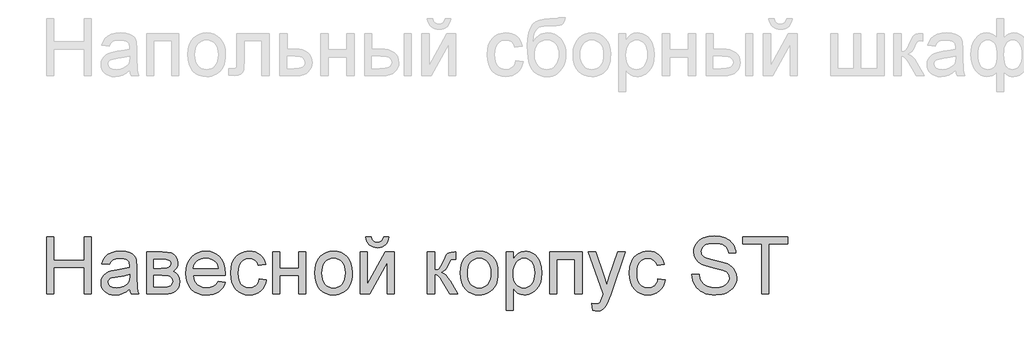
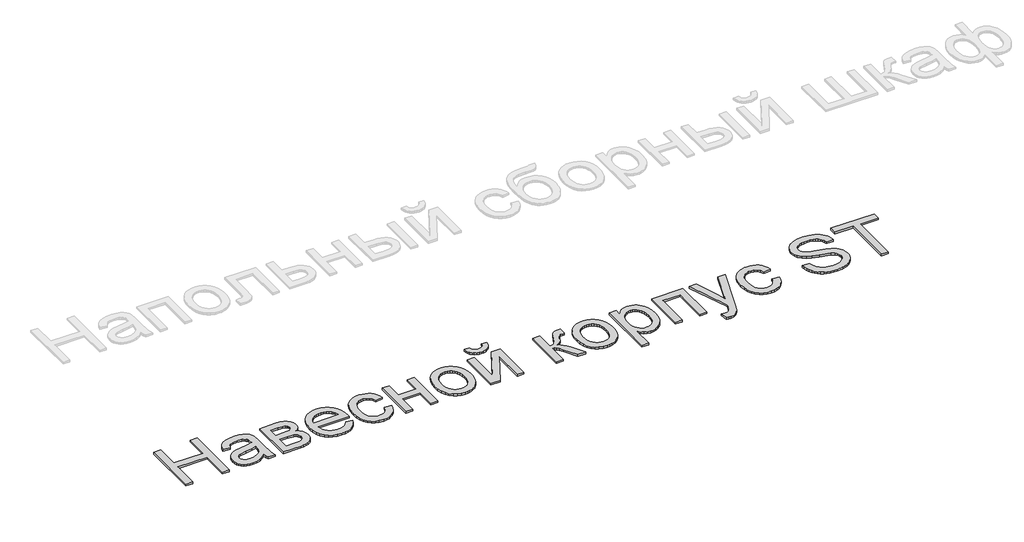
# One storey, part 5 of 6: 1 proxy.
"""IFC4 building model written with IfcOpenShell, lengths in millimetres."""

import ifcopenshell
import ifcopenshell.guid

model = None  # the IFC model being written
_history = None  # IfcOwnerHistory: only IFC2X3 demands one
_inside = {}  # id of a spatial element -> (the spatial element, [elements in it])
_under = {}  # id of a project, library or spatial element -> (it, [spatial elements below it])
_declared = {}  # id of a project -> (the project, [libraries it declares])
_typed = {}  # id of a type object -> (the type object, [elements of that type])
_made_of = {}  # id of a material, layer set ... -> (it, [elements and type objects made of it])


def new_model(schema):
    """Start an empty IFC model of exactly this schema.

    Asked for "IFC4X3", IfcOpenShell would pick the latest addendum, in which some entities
    have other attributes; the version numbers below select the first issue.
    IFC2X3 requires an IfcOwnerHistory on every rooted entity: one is made here for all.
    """
    global model, _history
    if schema == "IFC4X3":
        model = ifcopenshell.file(schema_version=(4, 3, 0, 0))
    else:
        model = ifcopenshell.file(schema=schema)
    _inside.clear()
    _under.clear()
    _declared.clear()
    _typed.clear()
    _made_of.clear()
    _history = None
    if model.schema == "IFC2X3":
        org = make("IfcOrganization", Name="unknown")
        user = make(
            "IfcPersonAndOrganization",
            ThePerson=make("IfcPerson", FamilyName="unknown"),
            TheOrganization=org,
        )
        app = make(
            "IfcApplication",
            ApplicationDeveloper=org,
            Version="unknown",
            ApplicationFullName="unknown",
            ApplicationIdentifier="unknown",
        )
        _history = make(
            "IfcOwnerHistory",
            OwningUser=user,
            OwningApplication=app,
            ChangeAction="ADDED",
            CreationDate=0,
        )
    return model


def make(cls, **values):
    """One entity of the class cls with the attributes given. An attribute that is None is left unset."""
    return model.create_entity(
        cls, **{name: value for name, value in values.items() if value is not None}
    )


def rooted(cls, **values):
    """An entity with a GlobalId (a new one), such as an element, a storey or a relation."""
    return make(cls, GlobalId=ifcopenshell.guid.new(), OwnerHistory=_history, **values)


def si_unit(unit_type, name, prefix=None):
    """IfcSIUnit, for example si_unit("LENGTHUNIT", "METRE", prefix="MILLI")."""
    return make("IfcSIUnit", UnitType=unit_type, Prefix=prefix, Name=name)


def assignment(units):
    """IfcUnitAssignment: the units of a project."""
    return None if units is None else make("IfcUnitAssignment", Units=units)


def point(xyz):
    """IfcCartesianPoint."""
    return None if xyz is None else make("IfcCartesianPoint", Coordinates=xyz)


def direction(xyz):
    """IfcDirection."""
    return None if xyz is None else make("IfcDirection", DirectionRatios=xyz)


def frame(location, z_axis=None, x_axis=None):
    """IfcAxis2Placement3D, a coordinate frame: its origin and axes. An axis left out is left unset."""
    return make(
        "IfcAxis2Placement3D",
        Location=point(location),
        Axis=direction(z_axis),
        RefDirection=direction(x_axis),
    )


def origin():
    """The frame at (0, 0, 0) with its axes left unset."""
    return frame((0.0, 0.0, 0.0))


def origin_with_axes():
    """The frame at (0, 0, 0) with the z axis (0, 0, 1) and the x axis (1, 0, 0) written out."""
    return frame((0.0, 0.0, 0.0), z_axis=(0.0, 0.0, 1.0), x_axis=(1.0, 0.0, 0.0))


def place(relative_to, where):
    """IfcLocalPlacement: puts the frame where relative to a parent placement (None: the world)."""
    return make(
        "IfcLocalPlacement", PlacementRelTo=relative_to, RelativePlacement=where
    )


def context(
    kind, dimensions, precision=None, world=None, true_north=None, identifier=None
):
    """IfcGeometricRepresentationContext, for example the 3D "Model" context."""
    return make(
        "IfcGeometricRepresentationContext",
        ContextIdentifier=identifier,
        ContextType=kind,
        CoordinateSpaceDimension=dimensions,
        Precision=precision,
        WorldCoordinateSystem=world,
        TrueNorth=true_north,
    )


def project(units=None, contexts=None):
    """IfcProject with its units and contexts."""
    return rooted(
        "IfcProject",
        Name="project",
        RepresentationContexts=contexts,
        UnitsInContext=assignment(units),
    )


def spatial(cls, under=None, at=None, **own):
    """A site, building, storey or space (cls), placed at a placement, below another one or the project."""
    s = rooted(cls, ObjectPlacement=at, **own)
    if under is not None:
        _under.setdefault(under.id(), (under, []))[1].append(s)
    return s


def polyline(points):
    """IfcPolyline through the points."""
    return make("IfcPolyline", Points=[point(p) for p in points])


def outline(outer, holes=None, kind="AREA"):
    """IfcArbitraryClosedProfileDef: a profile drawn as a closed curve; with holes, ...WithVoids."""
    if holes is None:
        return make("IfcArbitraryClosedProfileDef", ProfileType=kind, OuterCurve=outer)
    return make(
        "IfcArbitraryProfileDefWithVoids",
        ProfileType=kind,
        OuterCurve=outer,
        InnerCurves=holes,
    )


def extrude(swept, where, along, depth):
    """IfcExtrudedAreaSolid: the profile swept, set in the frame where, extruded along a direction by depth."""
    return make(
        "IfcExtrudedAreaSolid",
        SweptArea=swept,
        Position=where,
        ExtrudedDirection=direction(along),
        Depth=depth,
    )


def shape(context_of_items, identifier, shape_type, items):
    """IfcShapeRepresentation: the items that make up one representation, for example the "Body"."""
    return make(
        "IfcShapeRepresentation",
        ContextOfItems=context_of_items,
        RepresentationIdentifier=identifier,
        RepresentationType=shape_type,
        Items=items,
    )


def made_of(thing, what):
    """Note that an element or type object is made of a material, layer set ...; save() writes the relation."""
    if what is not None:
        _made_of.setdefault(what.id(), (what, []))[1].append(thing)
    return thing


def element(
    cls,
    number,
    at=None,
    inside=None,
    cuts=None,
    type_object=None,
    material=None,
    context=None,
    identifier="Body",
    shape_type=None,
    held_by="IfcProductDefinitionShape",
    body=None,
    shapes=None,
    **own,
):
    """One element of the class cls, such as IfcWall. Its Tag is "e" and its number.

    at: its placement. inside: the storey or other place that contains it. cuts: it is an
    opening in that element (IfcRelVoidsElement). A single representation is given by context,
    identifier, shape_type and body (its items); several are given by shapes. held_by: the class
    of the entity that holds the representations. save() writes the other relations.
    """
    e = rooted(cls, Tag="e%d" % number, ObjectPlacement=at, **own)
    if body is not None:
        shapes = [shape(context, identifier, shape_type, body)]
    if shapes is not None:
        e.Representation = make(held_by, Representations=shapes)
    if inside is not None:
        _inside.setdefault(inside.id(), (inside, []))[1].append(e)
    if cuts is not None:
        rooted(
            "IfcRelVoidsElement", RelatingBuildingElement=cuts, RelatedOpeningElement=e
        )
    if type_object is not None:
        _typed.setdefault(type_object.id(), (type_object, []))[1].append(e)
    return made_of(e, material)


def aggregate(whole, parts):
    """IfcRelAggregates: a whole, such as a stair, and the parts it consists of."""
    return rooted("IfcRelAggregates", RelatingObject=whole, RelatedObjects=parts)


def save(model, path):
    """Write the relations noted so far, then the file.

    IfcRelAggregates (storeys below a building ...), IfcRelContainedInSpatialStructure (elements
    in a storey), IfcRelDefinesByType, IfcRelAssociatesMaterial and IfcRelDeclares: one each for
    every whole, place, type object, material and project.
    """
    for whole, parts in _under.values():
        aggregate(whole, parts)
    for where, things in _inside.values():
        rooted(
            "IfcRelContainedInSpatialStructure",
            RelatedElements=things,
            RelatingStructure=where,
        )
    for kind, things in _typed.values():
        rooted("IfcRelDefinesByType", RelatedObjects=things, RelatingType=kind)
    for what, things in _made_of.values():
        rooted("IfcRelAssociatesMaterial", RelatedObjects=things, RelatingMaterial=what)
    for by, libraries in _declared.values():
        rooted("IfcRelDeclares", RelatingContext=by, RelatedDefinitions=libraries)
    model.write(path)


model = new_model("IFC4")

# Units and contexts
model_context = context("Model", 3, world=origin())
ifc_project = project(units=[si_unit("LENGTHUNIT", "METRE", prefix="MILLI")], contexts=[model_context])

# Site, building, storey
site = spatial("IfcSite", under=ifc_project)
building = spatial("IfcBuilding", under=site)
storey = spatial("IfcBuildingStorey", under=building, Name="Этаж 01", Elevation=0.0)

# Proxy
placement = place(None, origin())
element("IfcBuildingElementProxy", 1, Name="600 мм Arial", ObjectType="600 мм Arial", at=placement, inside=storey, context=model_context, shape_type="SweptSolid", body=[
    extrude(outline(polyline([(180.1086, -5560.1853259), (180.1086, -4957.447465), (255.4508326, -4957.447465), (255.4508326, -5202.309721), (575.6553212, -5202.309721), (575.6553212, -4957.447465), (650.9975538, -4957.447465), (650.9975538, -5560.1853259), (575.6553212, -5560.1853259), (575.6553212, -5277.6519536), (255.4508326, -5277.6519536), (255.4508326, -5560.1853259), (180.1086, -5560.1853259)])), origin_with_axes(), (0.0, 0.0, 1.0), 20.0),
    extrude(outline(polyline([(1055.9620541, -5503.6786514), (1019.9648008, -5534.5439508), (982.9006898, -5554.7406724), (943.9235924, -5565.8874968), (902.1873801, -5569.603105), (868.6411407, -5567.3682218), (839.2243766, -5560.6635725), (813.937088, -5549.4891569), (792.7792747, -5533.844975), (776.0728336, -5514.7243083), (764.1396614, -5493.1204382), (756.9797581, -5469.0333645), (754.5931236, -5442.4630874), (758.1983672, -5411.229906), (769.0140978, -5382.8662042), (785.6975463, -5358.5859925), (806.9059433, -5339.6032816), (831.8299485, -5325.2558838), (859.6602214, -5314.8816115), (924.848911, -5303.5508461), (1001.8834008, -5291.6314694), (1055.5205957, -5277.6519536), (1055.9620541, -5260.8765346), (1050.7749179, -5227.2521203), (1044.2909978, -5214.7993147), (1035.2135095, -5205.2527769), (1019.5233425, -5195.7246333), (1000.4118728, -5188.9188164), (951.9250258, -5183.4741628), (907.0434224, -5187.0978005), (875.6998764, -5197.9687134), (854.3259325, -5218.0734645), (839.3531353, -5249.3986164), (764.0109027, -5239.9808373), (777.0891076, -5198.7780538), (796.6052475, -5166.4044383), (824.3803381, -5141.64598), (862.2353954, -5123.2886684), (908.5333445, -5111.9211148), (961.6371105, -5108.1319302), (1012.5703727, -5111.4796564), (1052.9454217, -5121.5228348), (1083.3876568, -5136.6243907), (1104.5224774, -5155.1472492), (1118.5387815, -5178.0479034), (1127.6254667, -5206.2828465), (1131.3042867, -5272.2073001), (1131.3042867, -5365.9436324), (1135.1302594, -5496.8360463), (1140.7956422, -5529.1912678), (1150.1398448, -5560.1853259), (1074.7976122, -5560.1853259), (1062.7310828, -5533.9921278), (1055.9620541, -5503.6786514)]), holes=[polyline([(1055.9620541, -5352.9941862), (1005.3414915, -5365.5389622), (934.4138429, -5376.0971755), (869.5930353, -5388.3108577), (852.7256458, -5396.661779), (840.2360521, -5408.1764855), (832.5105302, -5421.9720603), (829.9353562, -5437.1655867), (835.5455567, -5459.5696002), (852.3761579, -5477.9269118), (880.0592781, -5490.1773822), (918.2270351, -5494.2608724), (958.6940545, -5489.7543179), (994.4521845, -5476.2346546), (1023.4412857, -5456.3138446), (1043.601219, -5432.60385), (1052.5407515, -5408.1764855), (1055.5205957, -5374.3313419), (1055.9620541, -5352.9941862)])]), origin_with_axes(), (0.0, 0.0, 1.0), 20.0),
    extrude(outline(polyline([(1234.8998565, -5117.5497093), (1400.8882128, -5117.5497093), (1454.2494962, -5120.069701), (1491.9022184, -5127.629676), (1519.6037326, -5141.9034974), (1543.1113921, -5164.5650283), (1559.1694412, -5194.0875584), (1564.5221242, -5228.9443774), (1561.2847626, -5257.0321678), (1551.572678, -5281.2571972), (1535.349082, -5301.7298302), (1512.5771865, -5318.5604315), (1540.4626417, -5334.2138104), (1563.197749, -5359.3953329), (1578.317699, -5392.1184364), (1583.3576824, -5430.396558), (1579.1730247, -5461.2342662), (1570.5921771, -5487.8229374), (1557.6151397, -5510.1625716), (1540.2419125, -5528.2531687), (1518.4449043, -5542.2234875), (1492.196524, -5552.2022866), (1461.4967715, -5558.1895661), (1426.3456468, -5560.1853259), (1234.8998565, -5560.1853259), (1234.8998565, -5117.5497093)]), holes=[polyline([(1310.2420891, -5287.0697327), (1384.701405, -5287.0697327), (1446.1376982, -5283.2437599), (1461.9566239, -5277.5048008), (1476.0097162, -5267.9398689), (1485.8873477, -5255.2847283), (1489.1798916, -5240.2751429), (1487.7359548, -5228.0338695), (1483.4041443, -5217.797553), (1476.1844601, -5209.5661933), (1466.0769023, -5203.3397906), (1434.7701445, -5195.5039041), (1387.0558497, -5192.8919419), (1310.2420891, -5192.8919419), (1310.2420891, -5287.0697327)]), polyline([(1310.2420891, -5484.8430933), (1402.6540463, -5484.8430933), (1453.0170915, -5481.4401848), (1484.6181549, -5471.2314595), (1494.413013, -5463.1886393), (1501.5775148, -5452.6718128), (1508.0154497, -5424.2161405), (1504.7964823, -5405.3621882), (1495.1395799, -5387.9429758), (1480.3139355, -5374.3129478), (1461.588742, -5366.8265492), (1395.2964064, -5362.4119653), (1310.2420891, -5362.4119653), (1310.2420891, -5484.8430933)])]), origin_with_axes(), (0.0, 0.0, 1.0), 20.0),
    extrude(outline(polyline([(1987.4392659, -5428.3364188), (2061.3099705, -5437.7541979), (2049.9838036, -5467.3411074), (2034.6937081, -5493.4147438), (2015.4396842, -5515.9751071), (1992.2217318, -5535.0221974), (1965.2789742, -5550.1513445), (1934.8505346, -5560.9578781), (1900.9364132, -5567.4417982), (1863.5366099, -5569.603105), (1816.7880053, -5565.8737012), (1775.1345664, -5554.6854901), (1738.5762932, -5536.0384714), (1707.1131855, -5509.9326454), (1681.8121013, -5477.0945788), (1663.7398983, -5438.2508386), (1652.8965765, -5393.4014249), (1649.2821359, -5342.5463375), (1652.9333647, -5289.9668034), (1663.8870511, -5243.622869), (1682.1431951, -5203.5145345), (1707.7017967, -5169.6417998), (1739.0821309, -5142.7312319), (1774.8034726, -5123.5093976), (1814.8658219, -5111.9762971), (1859.2691787, -5108.1319302), (1902.2423943, -5111.9671), (1941.1045286, -5123.4726094), (1975.8555815, -5142.6484584), (2006.4955532, -5169.494647), (2031.5069304, -5203.2938053), (2049.3721997, -5243.3285634), (2060.0913614, -5289.5989214), (2063.6644153, -5342.1048792), (2063.2229569, -5362.4119653), (1724.6243685, -5362.4119653), (1728.9883687, -5392.4771213), (1737.6657852, -5418.8082751), (1750.6566182, -5441.4054267), (1767.9608675, -5460.268576), (1788.6220401, -5475.1402057), (1811.6836427, -5485.7627983), (1837.1456753, -5492.1363538), (1865.0081379, -5494.2608724), (1905.1072753, -5490.324535), (1938.8788425, -5478.515523), (1966.3228393, -5458.0980722), (1987.4392659, -5428.3364188)]), holes=[polyline([(1724.6243685, -5287.0697327), (1988.3221826, -5287.0697327), (1978.1318514, -5247.2649008), (1969.3670628, -5231.6115219), (1958.155859, -5218.7908344), (1937.6096496, -5203.3397906), (1914.2307488, -5192.3033307), (1888.0191567, -5185.6814548), (1858.9748731, -5183.4741628), (1832.482771, -5185.2353979), (1808.1887637, -5190.519103), (1786.0928514, -5199.3252783), (1766.195034, -5211.6539237), (1749.4977899, -5226.934822), (1737.0035976, -5244.5977563), (1728.7124572, -5264.6427265), (1724.6243685, -5287.0697327)])]), origin_with_axes(), (0.0, 0.0, 1.0), 20.0),
    extrude(outline(polyline([(2421.5400202, -5400.0830816), (2496.8822528, -5409.5008607), (2488.6876813, -5445.052057), (2475.8761909, -5476.5105661), (2458.4477813, -5503.876388), (2436.4024528, -5527.1495227), (2410.6691072, -5545.722965), (2382.1766467, -5558.9897094), (2350.9250712, -5566.9497561), (2316.9143807, -5569.603105), (2274.6585351, -5565.9012924), (2236.7712881, -5554.7958547), (2203.2526398, -5536.2867918), (2174.1025902, -5510.3741037), (2150.5075587, -5477.5452342), (2133.6539648, -5438.2876268), (2123.5418085, -5392.6012815), (2120.1710897, -5340.4861984), (2125.9284429, -5273.4397048), (2133.1251345, -5243.2687826), (2143.2005026, -5215.3327436), (2156.2235252, -5190.1926078), (2172.2631802, -5168.4093951), (2191.3194676, -5149.9831057), (2213.3923873, -5134.9137395), (2237.4840595, -5123.1966979), (2262.5966042, -5114.8273825), (2288.7300214, -5109.8057933), (2315.8843112, -5108.1319302), (2349.3109889, -5110.4311927), (2379.5462904, -5117.3289801), (2406.5902156, -5128.8252924), (2430.4427645, -5144.9201297), (2450.6992668, -5165.24561), (2466.9550525, -5189.4338512), (2479.2101214, -5217.4848533), (2487.4644737, -5249.3986164), (2412.1222411, -5258.8163954), (2398.455425, -5225.9461392), (2377.1734516, -5202.3832974), (2349.4535432, -5188.2014465), (2316.4729223, -5183.4741628), (2290.872934, -5185.8010165), (2267.7837403, -5192.7815773), (2247.2053412, -5204.4158454), (2229.1377367, -5220.7038207), (2214.4270554, -5242.0225824), (2203.9194259, -5268.7492093), (2197.6148482, -5300.8837016), (2195.5133223, -5338.4260592), (2197.568863, -5376.5340354), (2203.7354849, -5409.0410082), (2214.0131882, -5435.9469776), (2228.4019727, -5457.2519436), (2246.1108922, -5473.44335), (2266.3490005, -5485.0086402), (2289.1162975, -5491.9478143), (2314.4127832, -5494.2608724), (2353.4266688, -5488.485125), (2370.2986568, -5481.2654409), (2385.4140082, -5471.1578831), (2398.3496589, -5458.052087), (2408.6825444, -5441.837688), (2416.4126649, -5422.5146862), (2421.5400202, -5400.0830816)])), origin_with_axes(), (0.0, 0.0, 1.0), 20.0),
    extrude(outline(polyline([(2562.8067063, -5117.5497093), (2638.1489389, -5117.5497093), (2638.1489389, -5287.0697327), (2835.9222995, -5287.0697327), (2835.9222995, -5117.5497093), (2911.2645321, -5117.5497093), (2911.2645321, -5560.1853259), (2835.9222995, -5560.1853259), (2835.9222995, -5362.4119653), (2638.1489389, -5362.4119653), (2638.1489389, -5560.1853259), (2562.8067063, -5560.1853259), (2562.8067063, -5117.5497093)])), origin_with_axes(), (0.0, 0.0, 1.0), 20.0),
    extrude(outline(polyline([(3005.4423229, -5338.8675176), (3009.516616, -5281.5423057), (3021.7394953, -5232.1449508), (3042.1109608, -5190.6754529), (3070.6310125, -5157.133812), (3099.3442022, -5135.6954887), (3131.0372361, -5120.3824007), (3165.7101141, -5111.1945478), (3203.3628363, -5108.1319302), (3244.9289032, -5111.8613339), (3282.5126476, -5123.0495451), (3316.1140693, -5141.6965638), (3345.7331685, -5167.8023898), (3369.9076141, -5200.4841066), (3387.1750752, -5238.8587972), (3397.5355519, -5282.9264617), (3400.9890441, -5332.6871001), (3399.4623338, -5373.0161638), (3394.882203, -5408.8018849), (3387.2486516, -5440.0442633), (3376.5616796, -5466.7432991), (3362.9546444, -5489.8049017), (3346.5609029, -5510.1349804), (3327.3804554, -5527.7335354), (3305.4133018, -5542.6005665), (3281.5147677, -5554.4141771), (3256.5401787, -5562.8524704), (3230.4895349, -5567.9154463), (3203.3628363, -5569.603105), (3161.1897641, -5565.8874968), (3123.2565319, -5554.7406724), (3089.5631396, -5536.1626316), (3060.1095874, -5510.1533745), (3036.1926592, -5477.1543596), (3019.109139, -5437.6070451), (3008.8590269, -5391.5114311), (3005.4423229, -5338.8675176)]), holes=[polyline([(3080.7845555, -5338.7203648), (3082.9642563, -5375.2648425), (3089.5033588, -5406.9072926), (3100.4018629, -5433.6477151), (3115.6597687, -5455.4861101), (3134.2194153, -5472.4500686), (3155.0231422, -5484.5671818), (3178.0709491, -5491.8374497), (3203.3628363, -5494.2608724), (3228.5259648, -5491.8236541), (3251.4818013, -5484.5119995), (3272.2303458, -5472.3259084), (3290.7715984, -5455.2653809), (3306.0295041, -5433.2108553), (3316.9280082, -5406.0427699), (3323.4671107, -5373.7611248), (3325.6468115, -5336.36592), (3323.4533151, -5300.9802706), (3316.8728259, -5270.165555), (3305.9053439, -5243.9217732), (3290.5508692, -5222.2489251), (3271.9406387, -5205.2849666), (3251.2058898, -5193.1678534), (3228.3466223, -5185.8975855), (3203.3628363, -5183.4741628), (3178.0709491, -5185.8883884), (3155.0231422, -5193.1310652), (3134.2194153, -5205.2021932), (3115.6597687, -5222.1017723), (3100.4018629, -5243.8757879), (3089.5033588, -5270.5702252), (3082.9642563, -5302.1850842), (3080.7845555, -5338.7203648)])]), origin_with_axes(), (0.0, 0.0, 1.0), 20.0),
    extrude(outline(polyline([(3730.6113118, -4957.447465), (3787.1179863, -4957.447465), (3782.5700451, -4983.1578179), (3774.9594863, -5005.6951887), (3764.2863099, -5025.0595772), (3750.5505159, -5041.2509835), (3734.0280158, -5054.0302843), (3714.9947211, -5063.1583563), (3693.4506318, -5068.6351995), (3669.3957478, -5070.4608139), (3643.2669291, -5068.6489951), (3619.9156195, -5063.2135386), (3599.3418189, -5054.1544445), (3581.5455274, -5041.4717127), (3566.7842623, -5025.3492843), (3555.3155411, -5005.9711002), (3547.1393638, -4983.3371604), (3542.2557303, -4957.447465), (3598.7624047, -4957.447465), (3606.7086558, -4982.2611056), (3619.9524077, -4999.9010472), (3638.5672366, -5010.4408664), (3662.6267191, -5013.9541395), (3689.7764103, -5010.551231), (3709.4213089, -5000.3425056), (3722.6650607, -4982.8129286), (3730.6113118, -4957.447465)])), origin_with_axes(), (0.0, 0.0, 1.0), 20.0),
    extrude(outline(polyline([(3485.7490558, -5117.5497093), (3561.0912884, -5117.5497093), (3561.0912884, -5455.1182281), (3746.2095084, -5117.5497093), (3843.6246607, -5117.5497093), (3843.6246607, -5560.1853259), (3768.2824281, -5560.1853259), (3768.2824281, -5224.6769463), (3584.3414305, -5560.1853259), (3485.7490558, -5560.1853259), (3485.7490558, -5117.5497093)])), origin_with_axes(), (0.0, 0.0, 1.0), 20.0),
    extrude(outline(polyline([(4192.0824866, -5117.5497093), (4267.4247192, -5117.5497093), (4267.4247192, -5305.9052908), (4298.0692894, -5302.5207765), (4317.8981289, -5292.3672334), (4335.4461001, -5265.8797298), (4359.2480652, -5213.4933336), (4378.4331112, -5170.6534753), (4393.6082435, -5145.4351645), (4407.7717003, -5131.694772), (4423.9217199, -5123.2886684), (4446.2705511, -5118.9844491), (4479.0304428, -5117.5497093), (4493.451417, -5117.5497093), (4493.451417, -5193.3334003), (4473.1443309, -5192.8919419), (4449.5998832, -5194.8785047), (4436.3561314, -5200.838193), (4425.6139771, -5217.429671), (4410.4572389, -5250.428686), (4394.5463426, -5283.4828832), (4380.0701861, -5304.0658809), (4362.540609, -5317.8062734), (4337.469451, -5330.3326553), (4361.3449925, -5340.9368538), (4384.9998048, -5359.6528503), (4408.4338879, -5386.4806448), (4431.6472418, -5421.4202373), (4512.2869752, -5560.1853259), (4426.6440467, -5560.1853259), (4347.6229941, -5424.3632933), (4326.2858384, -5388.2188872), (4307.8917386, -5366.9001256), (4289.3136979, -5356.4706711), (4267.4247192, -5352.9941862), (4267.4247192, -5560.1853259), (4192.0824866, -5560.1853259), (4192.0824866, -5117.5497093)])), origin_with_axes(), (0.0, 0.0, 1.0), 20.0),
    extrude(outline(polyline([(4540.5403124, -5338.8675176), (4544.6146055, -5281.5423057), (4556.8374848, -5232.1449508), (4577.2089503, -5190.6754529), (4605.7290019, -5157.133812), (4634.4421917, -5135.6954887), (4666.1352255, -5120.3824007), (4700.8081036, -5111.1945478), (4738.4608258, -5108.1319302), (4780.0268927, -5111.8613339), (4817.6106371, -5123.0495451), (4851.2120588, -5141.6965638), (4880.8311579, -5167.8023898), (4905.0056035, -5200.4841066), (4922.2730647, -5238.8587972), (4932.6335414, -5282.9264617), (4936.0870336, -5332.6871001), (4934.5603233, -5373.0161638), (4929.9801925, -5408.8018849), (4922.3466411, -5440.0442633), (4911.6596691, -5466.7432991), (4898.0526338, -5489.8049017), (4881.6588924, -5510.1349804), (4862.4784449, -5527.7335354), (4840.5112913, -5542.6005665), (4816.6127571, -5554.4141771), (4791.6381682, -5562.8524704), (4765.5875244, -5567.9154463), (4738.4608258, -5569.603105), (4696.2877536, -5565.8874968), (4658.3545213, -5554.7406724), (4624.6611291, -5536.1626316), (4595.2075769, -5510.1533745), (4571.2906487, -5477.1543596), (4554.2071285, -5437.6070451), (4543.9570164, -5391.5114311), (4540.5403124, -5338.8675176)]), holes=[polyline([(4615.882545, -5338.7203648), (4618.0622458, -5375.2648425), (4624.6013483, -5406.9072926), (4635.4998524, -5433.6477151), (4650.7577581, -5455.4861101), (4669.3174048, -5472.4500686), (4690.1211316, -5484.5671818), (4713.1689386, -5491.8374497), (4738.4608258, -5494.2608724), (4763.6239543, -5491.8236541), (4786.5797908, -5484.5119995), (4807.3283353, -5472.3259084), (4825.8695878, -5455.2653809), (4841.1274936, -5433.2108553), (4852.0259977, -5406.0427699), (4858.5651002, -5373.7611248), (4860.744801, -5336.36592), (4858.5513046, -5300.9802706), (4851.9708154, -5270.165555), (4841.0033334, -5243.9217732), (4825.6488586, -5222.2489251), (4807.0386282, -5205.2849666), (4786.3038793, -5193.1678534), (4763.4446118, -5185.8975855), (4738.4608258, -5183.4741628), (4713.1689386, -5185.8883884), (4690.1211316, -5193.1310652), (4669.3174048, -5205.2021932), (4650.7577581, -5222.1017723), (4635.4998524, -5243.8757879), (4624.6013483, -5270.5702252), (4618.0622458, -5302.1850842), (4615.882545, -5338.7203648)])]), origin_with_axes(), (0.0, 0.0, 1.0), 20.0),
    extrude(outline(polyline([(5020.8470453, -5729.7053493), (5020.8470453, -5117.5497093), (5096.1892779, -5117.5497093), (5096.1892779, -5191.4204139), (5120.7637952, -5154.9817023), (5148.2813684, -5128.9540511), (5180.3606784, -5113.3374605), (5218.6204059, -5108.1319302), (5244.8963774, -5109.9529461), (5269.5720622, -5115.4159937), (5292.6474604, -5124.5210731), (5314.1225718, -5137.2681842), (5333.5283471, -5153.3262333), (5350.3957366, -5172.3641266), (5364.7247403, -5194.381864), (5376.5153582, -5219.3794456), (5392.2974958, -5274.8928386), (5397.5582084, -5335.4830032), (5391.6169141, -5399.9175347), (5384.1902964, -5429.5826191), (5373.7930315, -5457.5462492), (5360.5676737, -5483.0772597), (5344.6567774, -5505.444485), (5326.0603426, -5524.6479252), (5304.7783692, -5540.6875801), (5281.8547223, -5553.3381223), (5258.3332673, -5562.3742238), (5234.214004, -5567.7958847), (5209.4969324, -5569.603105), (5174.8608426, -5564.7654567), (5143.9403609, -5550.252512), (5117.4712513, -5528.3451392), (5096.1892779, -5501.3242067), (5096.1892779, -5729.7053493), (5020.8470453, -5729.7053493)]), holes=[polyline([(5096.1892779, -5342.3991847), (5098.2264245, -5378.7091377), (5104.3378641, -5409.9423191), (5114.5235968, -5436.0987289), (5128.7836227, -5457.1783672), (5145.9499163, -5473.4019632), (5164.8544523, -5484.9902461), (5185.4972308, -5491.9432158), (5207.8782516, -5494.2608724), (5230.5811693, -5491.8604423), (5251.6010268, -5484.6591523), (5270.9378241, -5472.6570022), (5288.5915614, -5455.8539921), (5303.3022427, -5434.0109986), (5313.8098721, -5406.8888985), (5320.1144498, -5374.4876918), (5322.2159757, -5336.8073784), (5320.1650336, -5300.8101252), (5314.0122072, -5269.6321261), (5303.7574966, -5243.2733811), (5289.4009018, -5221.7338903), (5272.1932214, -5204.9952596), (5253.3852544, -5193.0390947), (5232.9770008, -5185.8653958), (5210.9684604, -5183.4741628), (5189.0288979, -5186.0171471), (5168.3861195, -5193.6461), (5149.040125, -5206.3610215), (5130.9909146, -5224.1619115), (5115.7651986, -5246.8096468), (5104.8896871, -5274.0651041), (5098.3643802, -5305.9282835), (5096.1892779, -5342.3991847)])]), origin_with_axes(), (0.0, 0.0, 1.0), 20.0),
    extrude(outline(polyline([(5482.31822, -5117.5497093), (5821.3582668, -5117.5497093), (5821.3582668, -5560.1853259), (5746.0160342, -5560.1853259), (5746.0160342, -5192.8919419), (5557.6604527, -5192.8919419), (5557.6604527, -5560.1853259), (5482.31822, -5560.1853259), (5482.31822, -5117.5497093)])), origin_with_axes(), (0.0, 0.0, 1.0), 20.0),
    extrude(outline(polyline([(5934.3716157, -5729.7053493), (5924.9538366, -5657.1590198), (5963.2135641, -5663.7808957), (5983.3367093, -5661.7023625), (5998.9716941, -5655.4667626), (6011.1485881, -5645.5155547), (6020.897461, -5632.2901969), (6041.4988527, -5576.8135921), (6047.3849646, -5558.5666451), (5887.2827203, -5117.5497093), (5966.7452313, -5117.5497093), (6051.6523958, -5363.2948821), (6081.2301082, -5461.5929512), (6110.8078206, -5374.7728003), (6198.0694299, -5117.5497093), (6276.9433296, -5117.5497093), (6122.87435, -5570.7803274), (6082.848789, -5669.0783965), (6062.3577618, -5700.4587307), (6039.1444079, -5722.2005566), (6012.1786577, -5734.8924854), (5980.4304415, -5739.1231283), (5958.6150392, -5736.7686836), (5934.3716157, -5729.7053493)])), origin_with_axes(), (0.0, 0.0, 1.0), 20.0),
    extrude(outline(polyline([(6621.8694883, -5400.0830816), (6697.2117209, -5409.5008607), (6689.0171495, -5445.052057), (6676.205659, -5476.5105661), (6658.7772495, -5503.876388), (6636.7319209, -5527.1495227), (6610.9985753, -5545.722965), (6582.5061148, -5558.9897094), (6551.2545393, -5566.9497561), (6517.2438489, -5569.603105), (6474.9880032, -5565.9012924), (6437.1007562, -5554.7958547), (6403.5821079, -5536.2867918), (6374.4320583, -5510.3741037), (6350.8370269, -5477.5452342), (6333.983433, -5438.2876268), (6323.8712766, -5392.6012815), (6320.5005579, -5340.4861984), (6326.2579111, -5273.4397048), (6333.4546026, -5243.2687826), (6343.5299707, -5215.3327436), (6356.5529934, -5190.1926078), (6372.5926484, -5168.4093951), (6391.6489357, -5149.9831057), (6413.7218554, -5134.9137395), (6437.8135276, -5123.1966979), (6462.9260723, -5114.8273825), (6489.0594895, -5109.8057933), (6516.2137793, -5108.1319302), (6549.6404571, -5110.4311927), (6579.8757585, -5117.3289801), (6606.9196837, -5128.8252924), (6630.7722326, -5144.9201297), (6651.0287349, -5165.24561), (6667.2845206, -5189.4338512), (6679.5395896, -5217.4848533), (6687.7939418, -5249.3986164), (6612.4517092, -5258.8163954), (6598.7848931, -5225.9461392), (6577.5029197, -5202.3832974), (6549.7830113, -5188.2014465), (6516.8023905, -5183.4741628), (6491.2024021, -5185.8010165), (6468.1132084, -5192.7815773), (6447.5348093, -5204.4158454), (6429.4672048, -5220.7038207), (6414.7565235, -5242.0225824), (6404.2488941, -5268.7492093), (6397.9443164, -5300.8837016), (6395.8427905, -5338.4260592), (6397.8983311, -5376.5340354), (6404.0649531, -5409.0410082), (6414.3426563, -5435.9469776), (6428.7314408, -5457.2519436), (6446.4403604, -5473.44335), (6466.6784686, -5485.0086402), (6489.4457656, -5491.9478143), (6514.7422513, -5494.2608724), (6553.7561369, -5488.485125), (6570.6281249, -5481.2654409), (6585.7434764, -5471.1578831), (6598.679127, -5458.052087), (6609.0120126, -5441.837688), (6616.742133, -5422.5146862), (6621.8694883, -5400.0830816)])), origin_with_axes(), (0.0, 0.0, 1.0), 20.0),
    extrude(outline(polyline([(6979.7450932, -5352.9941862), (7055.0873258, -5352.9941862), (7063.7325527, -5394.803975), (7079.3675375, -5428.4099952), (7103.7581138, -5455.0814399), (7138.6701151, -5476.0875018), (7181.3444266, -5489.7175297), (7229.0219331, -5494.2608724), (7270.9972688, -5490.8211757), (7307.7486801, -5480.5020857), (7337.5287276, -5464.1681252), (7358.5899718, -5442.6838166), (7371.1163538, -5418.0173289), (7375.2918144, -5392.1368305), (7372.1648175, -5366.9185197), (7362.7838266, -5345.1215115), (7343.7275392, -5326.5250767), (7311.5746529, -5310.908486), (7201.8722419, -5282.1401139), (7129.8593413, -5263.1022207), (7083.7821214, -5244.9840324), (7046.276552, -5219.636963), (7019.6970779, -5188.9188164), (7003.859758, -5153.4917802), (6998.5806514, -5114.0180421), (7000.2131277, -5091.581839), (7005.1105568, -5069.8905968), (7013.2729385, -5048.9443157), (7024.700273, -5028.7429957), (7039.2638015, -5010.1097726), (7056.8347653, -4993.8677825), (7077.4131644, -4980.0170254), (7100.9989988, -4968.5575013), (7154.0107943, -4953.1616398), (7212.6879726, -4948.0296859), (7276.2579813, -4953.400763), (7331.881739, -4969.5139944), (7356.217133, -4981.5161445), (7377.5726828, -4996.0382863), (7395.9483885, -5013.0804197), (7411.3442499, -5032.6425448), (7423.6407056, -5054.1544445), (7432.7181939, -5077.0459016), (7438.5767146, -5101.3169163), (7441.216268, -5126.9674884), (7365.8740353, -5126.9674884), (7360.834052, -5102.9264), (7352.0416723, -5082.0123086), (7339.4968963, -5064.2252141), (7323.1997239, -5049.5651166), (7302.8466525, -5038.1055924), (7278.1341795, -5029.920218), (7249.0623048, -5025.0089934), (7215.6310285, -5023.3719185), (7181.1328944, -5024.9905993), (7151.6563496, -5029.8466416), (7127.2013939, -5037.9400455), (7107.7680275, -5049.270811), (7092.9607772, -5062.8916419), (7082.3841699, -5077.855242), (7076.0382054, -5094.1616115), (7073.922884, -5111.8107502), (7075.4220031, -5126.9950795), (7079.9193605, -5140.7630632), (7087.4149561, -5153.1147012), (7097.9087901, -5164.0499935), (7114.4266916, -5174.4058717), (7140.4359487, -5184.8721144), (7220.9285292, -5206.1356937), (7303.9962838, -5226.3324153), (7354.2489643, -5243.9539628), (7397.1991872, -5271.2875951), (7413.8044608, -5287.3548412), (7427.1631757, -5305.022374), (7437.4316819, -5324.198223), (7444.7663292, -5344.7904177), (7450.634047, -5390.2238441), (7448.9463884, -5413.7912844), (7443.8834124, -5436.668946), (7435.4451192, -5458.8568288), (7423.6315086, -5480.3549329), (7408.6495143, -5500.3309253), (7390.70607, -5517.9524728), (7369.8011756, -5533.2195756), (7345.9348312, -5546.1322337), (7319.801414, -5556.4007399), (7292.0953012, -5563.7353871), (7231.9649891, -5569.603105), (7193.4247516, -5568.0212124), (7158.1494668, -5563.2755347), (7126.1391347, -5555.3660718), (7097.3937553, -5544.2928237), (7071.7385846, -5530.0373964), (7048.9988788, -5512.5813957), (7029.1746378, -5491.9248217), (7012.2658616, -5468.0676743), (6998.6450307, -5441.7825057), (6988.6846257, -5413.8418682), (6982.3846465, -5384.2457617), (6979.7450932, -5352.9941862)])), origin_with_axes(), (0.0, 0.0, 1.0), 20.0),
    extrude(outline(polyline([(7714.3318612, -5560.1853259), (7714.3318612, -5032.7896976), (7516.5585006, -5032.7896976), (7516.5585006, -4957.447465), (7987.4474544, -4957.447465), (7987.4474544, -5032.7896976), (7789.6740938, -5032.7896976), (7789.6740938, -5560.1853259), (7714.3318612, -5560.1853259)])), origin_with_axes(), (0.0, 0.0, 1.0), 20.0),
])

save(model, "model.ifc")
